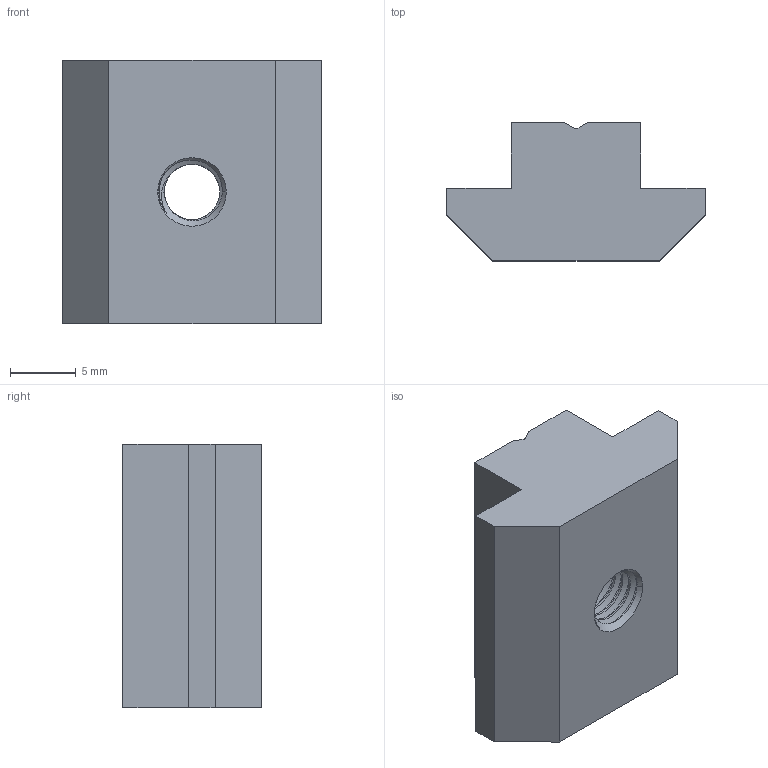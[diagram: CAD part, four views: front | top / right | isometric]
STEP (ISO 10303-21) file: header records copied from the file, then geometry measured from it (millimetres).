
FILE_DESCRIPTION (( 'STEP AP203' ), '1' );
FILE_NAME ('2125.010.002.STEP', '2023-05-24T05:23:29', ( '' ), ( '' ), 'SwSTEP 2.0', 'SolidWorks 2022', '' );
FILE_SCHEMA (( 'CONFIG_CONTROL_DESIGN' ));
Length unit declared in the file: millimetre
Products named in the file (1): 2125.010.002
Bounding box: 19.6 x 10.5 x 20 mm (x, y, z)
Volume: 2706 mm3; surface area: 1617.5 mm2
Topology: 1 solids, 1 shells, 54 faces, 158 edges, 105 vertices
Faces by surface type: cylinder 27, plane 17, cone 6, bspline 4
Entity records: 6251 total; most frequent: CARTESIAN_POINT 4948, ORIENTED_EDGE 316, DIRECTION 194, EDGE_CURVE 158, VERTEX_POINT 105, LINE 72, VECTOR 72, AXIS2_PLACEMENT_3D 61
